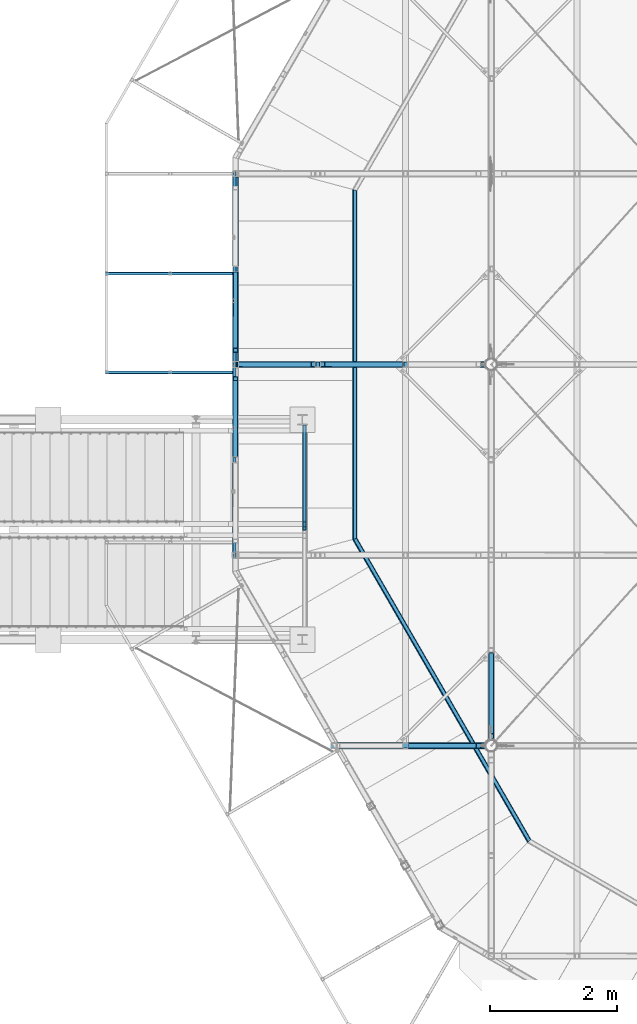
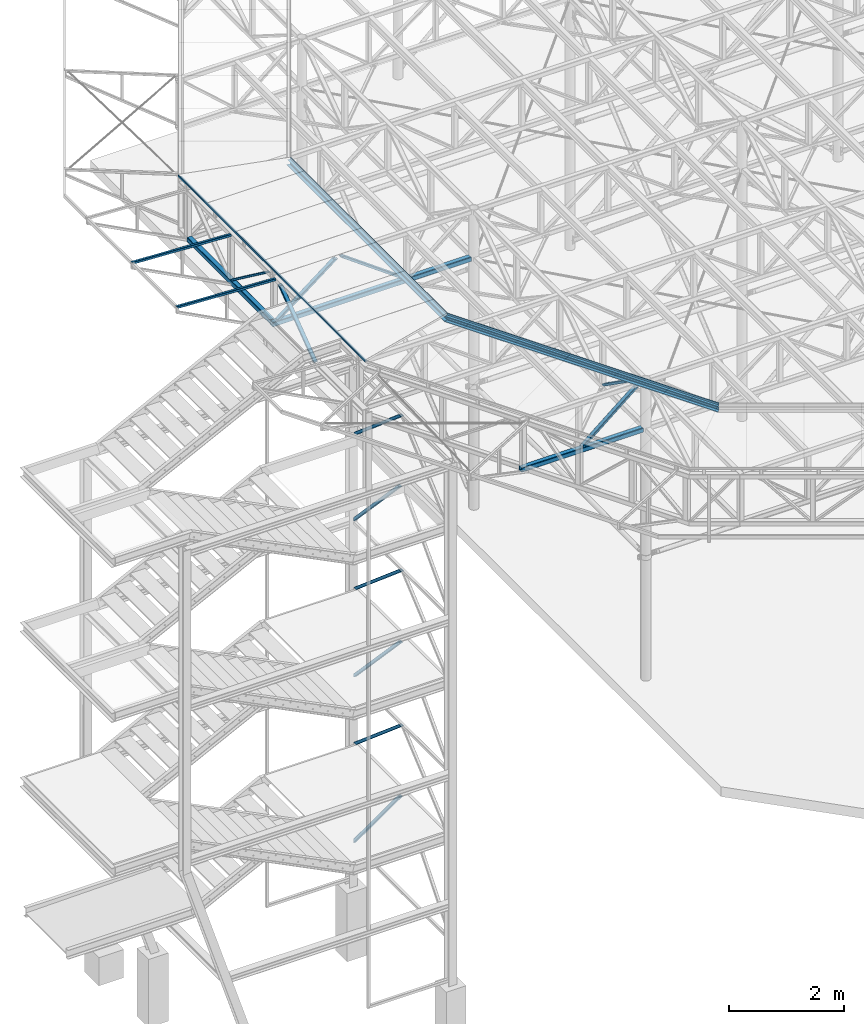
# One storey, part 42 of 132: 22 discrete accessories, 15 elements without a shape of their own.
"""IFC2X3 building model written with IfcOpenShell, lengths in millimetres."""

from ifc_helpers import new_model, si_unit, frame, origin_with_axes, origin_2d_with_axis, place, context, subcontext, project, spatial, polyline, rounded_rectangle, hollow_rectangle, circle, l_section, outline, extrude, boolean, clip, halfspace, material, type_object, element, aggregate, save


model = new_model("IFC2X3")

# Units and contexts
model_context = context("Model", 3, precision=1e-05, world=origin_with_axes())
body_context = subcontext(model_context, "Body", "Model", "MODEL_VIEW")
ifc_project = project(units=[si_unit("LENGTHUNIT", "METRE", prefix="MILLI"), si_unit("AREAUNIT", "SQUARE_METRE"), si_unit("VOLUMEUNIT", "CUBIC_METRE"), si_unit("MASSUNIT", "GRAM", prefix="KILO"), si_unit("TIMEUNIT", "SECOND"), si_unit("PLANEANGLEUNIT", "RADIAN"), si_unit("SOLIDANGLEUNIT", "STERADIAN"), si_unit("THERMODYNAMICTEMPERATUREUNIT", "DEGREE_CELSIUS"), si_unit("LUMINOUSINTENSITYUNIT", "LUMEN")], contexts=[model_context])

# Site, building, storey
site_placement = place(None, origin_with_axes())
site = spatial("IfcSite", under=ifc_project, at=site_placement, Name="Budowa", CompositionType="ELEMENT")
building_placement = place(site_placement, origin_with_axes())
building = spatial("IfcBuilding", under=site, at=building_placement, Name="Undefined", CompositionType="ELEMENT")
storey_placement = place(building_placement, origin_with_axes())
storey = spatial("IfcBuildingStorey", under=building, at=storey_placement, Name="Undefined", CompositionType="ELEMENT", Elevation=0.0)

# Assembly, discrete accessories
assembly_1_placement = place(storey_placement, origin_with_axes())
assembly_1 = element("IfcElementAssembly", 1, at=assembly_1_placement, inside=storey, Name="Steel Assembly", AssemblyPlace="NOTDEFINED", PredefinedType="RIGID_FRAME")
ifc_material = material(Name="STEEL/S235")
discrete_accessory_type_1 = type_object("IfcDiscreteAccessoryType", Name="BEAM")
discrete_accessory_1_placement = place(assembly_1_placement, frame((-19.8260769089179, 15262.3828126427, 14004.0), z_axis=(0.999999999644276, -2.66729999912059e-05, 0.0), x_axis=(-2.66729999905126e-05, -0.999999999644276, 0.0)))
discrete_accessory_1 = element("IfcDiscreteAccessory", 2, at=discrete_accessory_1_placement, type_object=discrete_accessory_type_1, material=ifc_material, Name="BEAM", ObjectType="L60*40*6", context=body_context, shape_type="Clipping", body=[
    clip(clip(extrude(l_section(Depth=60.0, Width=40.0, Thickness=6.0, FilletRadius=6.0, EdgeRadius=3.0, at=origin_2d_with_axis()), frame((6532.94990274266, 1.81898940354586e-12, 0.0), z_axis=(-1.0, 0.0, 0.0), x_axis=(0.0, -1.0, 0.0)), (0.0, 0.0, 1.0), 6541.15), halfspace(frame((6508.67222211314, 1.81898940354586e-12, 30.0000000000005), z_axis=(-0.965921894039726, 0.0, -0.258833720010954), x_axis=(0.0, -1.0, 0.0)), True)), halfspace(frame((-1.35811551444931e-05, 1.81898940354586e-12, -30.0000000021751), z_axis=(0.965934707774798, 0.0, -0.258785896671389), x_axis=(0.0, -1.0, 0.0)), True)),
])
discrete_accessory_2_placement = place(assembly_1_placement, frame((1885.3491541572, 9249.59673348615, 13965.0), z_axis=(-0.866025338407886, -0.500000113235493, 0.0), x_axis=(0.5000000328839, -0.866025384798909, 0.0)))
discrete_accessory_2 = element("IfcDiscreteAccessory", 3, at=discrete_accessory_2_placement, type_object=discrete_accessory_type_1, material=ifc_material, Name="BEAM", ObjectType="L50*6", context=body_context, shape_type="Clipping", body=[
    clip(clip(extrude(l_section(Depth=50.0, Width=50.0, Thickness=6.0, FilletRadius=7.0, EdgeRadius=3.5, at=origin_2d_with_axis()), frame((5526.24367077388, 1.81898940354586e-12, 0.0), z_axis=(-1.0, 0.0, 0.0), x_axis=(0.0, -1.0, 0.0)), (0.0, 0.0, 1.0), 5576.68), halfspace(frame((5475.81065913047, 1.81898940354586e-12, -24.9999999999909), z_axis=(-0.965925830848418, 0.0, 0.258819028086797), x_axis=(0.0, 1.0, 0.0)), True)), halfspace(frame((3.51101334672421e-08, 0.0, -24.9999999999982), z_axis=(-0.965925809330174, 0.0, -0.258819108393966), x_axis=(0.0, 1.0, 0.0)), False)),
])
discrete_accessory_3_placement = place(assembly_1_placement, frame((1881.9997908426, 14737.9039272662, 13965.0), z_axis=(-1.0, 0.0, 0.0), x_axis=(0.0, -1.0, 0.0)))
discrete_accessory_3 = element("IfcDiscreteAccessory", 4, at=discrete_accessory_3_placement, type_object=discrete_accessory_type_1, material=ifc_material, Name="BEAM", ObjectType="L50*6", context=body_context, shape_type="Clipping", body=[
    clip(clip(extrude(l_section(Depth=50.0, Width=50.0, Thickness=6.0, FilletRadius=7.0, EdgeRadius=3.5, at=origin_2d_with_axis()), frame((5496.03735585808, 0.0, 0.0), z_axis=(-1.0, 0.0, 0.0), x_axis=(0.0, -1.0, 0.0)), (0.0, 0.0, 1.0), 5516.27), halfspace(frame((5475.80719653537, 0.0, -25.0000000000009), z_axis=(-0.965925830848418, 0.0, 0.258819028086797), x_axis=(0.0, 1.0, 0.0)), True)), halfspace(frame((-13.3974570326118, 0.0, 24.9999999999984), z_axis=(0.965925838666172, 0.0, 0.258818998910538), x_axis=(0.0, 1.0, 0.0)), True)),
])
aggregate(assembly_1, [discrete_accessory_1, discrete_accessory_2, discrete_accessory_3])

assembly_2_placement = place(storey_placement, origin_with_axes())
assembly_2 = element("IfcElementAssembly", 5, at=assembly_2_placement, inside=storey, Name="Steel Assembly", AssemblyPlace="NOTDEFINED", PredefinedType="RIGID_FRAME")
discrete_accessory_4_placement = place(assembly_2_placement, frame((1878.49979089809, 14735.4923850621, 13955.0), z_axis=(0.0, 0.0, 1.0), x_axis=(0.0, -1.0, 0.0)))
discrete_accessory_4 = element("IfcDiscreteAccessory", 6, at=discrete_accessory_4_placement, type_object=discrete_accessory_type_1, material=ifc_material, Name="BEAM", ObjectType="L150*75*9", context=body_context, shape_type="Clipping", body=[
    clip(clip(extrude(l_section(Depth=150.0, Width=75.0, Thickness=9.0, FilletRadius=10.5, EdgeRadius=5.5, at=origin_2d_with_axis()), frame((5501.32935123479, 0.0, 0.0), z_axis=(-1.0, 0.0, 0.0), x_axis=(0.0, -1.0, 0.0)), (0.0, 0.0, 1.0), 5531.67), halfspace(frame((5470.98411225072, 37.5000000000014, 0.0), z_axis=(-0.965925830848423, -0.258819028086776, 0.0), x_axis=(0.0, 0.0, 1.0)), True)), halfspace(frame((-20.0961854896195, -37.4999999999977, 0.0), z_axis=(0.965925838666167, -0.258818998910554, 0.0), x_axis=(0.0, 0.0, 1.0)), True)),
])
discrete_accessory_5_placement = place(assembly_2_placement, frame((1883.52431064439, 9245.75745461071, 13955.0), z_axis=(0.0, 0.0, 1.0), x_axis=(0.5000000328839, -0.866025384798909, 0.0)))
discrete_accessory_5 = element("IfcDiscreteAccessory", 7, at=discrete_accessory_5_placement, type_object=discrete_accessory_type_1, material=ifc_material, Name="BEAM", ObjectType="L150*75*9", context=body_context, shape_type="Clipping", body=[
    clip(clip(extrude(l_section(Depth=150.0, Width=75.0, Thickness=9.0, FilletRadius=10.5, EdgeRadius=5.5, at=origin_2d_with_axis()), frame((5546.63614111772, 3.07900157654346e-13, 3.63797880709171e-12), z_axis=(-1.0, 0.0, 0.0), x_axis=(0.0, -1.0, 0.0)), (0.0, 0.0, 1.0), 5622.29), halfspace(frame((5470.9866236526, 37.4999999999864, 3.63797880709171e-12), z_axis=(-0.965925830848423, -0.258819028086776, 0.0), x_axis=(0.0, 0.0, 1.0)), True)), halfspace(frame((-0.000949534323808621, 37.5000000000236, 3.63797880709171e-12), z_axis=(-0.965925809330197, 0.258819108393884, 0.0), x_axis=(0.0, 0.0, 1.0)), False)),
])
aggregate(assembly_2, [discrete_accessory_4, discrete_accessory_5])

# Assembly, discrete accessory
assembly_3_placement = place(storey_placement, origin_with_axes())
assembly_3 = element("IfcElementAssembly", 8, at=assembly_3_placement, inside=storey, Name="Steel Assembly", AssemblyPlace="NOTDEFINED", PredefinedType="RIGID_FRAME")
discrete_accessory_6_placement = place(assembly_3_placement, frame((-51.148440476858, 11875.0000000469, 13855.0311915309), z_axis=(0.0, 1.0, 0.0), x_axis=(-0.998752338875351, 0.0, 0.0499376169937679)))
discrete_accessory_6 = element("IfcDiscreteAccessory", 9, at=discrete_accessory_6_placement, type_object=discrete_accessory_type_1, material=ifc_material, Name="BEAM", ObjectType="SHS50*4", context=body_context, shape_type="Clipping", body=[
    clip(clip(extrude(hollow_rectangle(XDim=50.0, YDim=50.0, WallThickness=4.0, InnerFilletRadius=4.0, OuterFilletRadius=8.0, at=origin_2d_with_axis()), frame((2004.12425861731, -3.63797880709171e-12, 0.0), z_axis=(-1.0, 0.0, 0.0), x_axis=(0.0, -1.0, 0.0)), (0.0, 0.0, 1.0), 2033.18), halfspace(frame((2002.59894631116, 25.0000000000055, -2.91038304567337e-11), z_axis=(-0.689225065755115, 0.724547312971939, 0.0), x_axis=(0.0, 0.0, 1.0)), True)), halfspace(frame((-1.21290213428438e-08, 25.0000000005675, 73.1665326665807), z_axis=(-0.998752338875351, 0.0499376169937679, 0.0), x_axis=(-0.0499376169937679, -0.998752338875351, 0.0)), False)),
])
aggregate(assembly_3, [discrete_accessory_6])

assembly_4_placement = place(storey_placement, origin_with_axes())
assembly_4 = element("IfcElementAssembly", 10, at=assembly_4_placement, inside=storey, Name="Steel Assembly", AssemblyPlace="NOTDEFINED", PredefinedType="RIGID_FRAME")
discrete_accessory_7_placement = place(assembly_4_placement, frame((-51.148440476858, 13430.0000000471, 13855.0311915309), z_axis=(0.0, 1.0, 0.0), x_axis=(-0.998752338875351, 0.0, 0.0499376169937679)))
discrete_accessory_7 = element("IfcDiscreteAccessory", 11, at=discrete_accessory_7_placement, type_object=discrete_accessory_type_1, material=ifc_material, Name="BEAM", ObjectType="SHS50*4", context=body_context, shape_type="Clipping", body=[
    clip(clip(extrude(hollow_rectangle(XDim=50.0, YDim=50.0, WallThickness=4.0, InnerFilletRadius=4.0, OuterFilletRadius=8.0, at=origin_2d_with_axis()), frame((2004.12425861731, -3.63797880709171e-12, 0.0), z_axis=(-1.0, 0.0, 0.0), x_axis=(0.0, -1.0, 0.0)), (0.0, 0.0, 1.0), 2033.18), halfspace(frame((2002.59894631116, 25.0000000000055, -2.91038304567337e-11), z_axis=(-0.689225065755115, 0.724547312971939, 0.0), x_axis=(0.0, 0.0, 1.0)), True)), halfspace(frame((-1.21290213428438e-08, 25.0000000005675, 73.1665326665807), z_axis=(-0.998752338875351, 0.0499376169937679, 0.0), x_axis=(-0.0499376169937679, -0.998752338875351, 0.0)), False)),
])
aggregate(assembly_4, [discrete_accessory_7])

# Assembly, discrete accessories
assembly_5_placement = place(storey_placement, origin_with_axes())
assembly_5 = element("IfcElementAssembly", 12, at=assembly_5_placement, inside=storey, Name="Steel Assembly", AssemblyPlace="NOTDEFINED", PredefinedType="RIGID_FRAME")
discrete_accessory_8_placement = place(assembly_5_placement, frame((0.0999999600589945, 13500.000000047, 12830.0000000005), z_axis=(-1.0, 0.0, 0.0), x_axis=(0.0, -0.802498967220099, 0.596653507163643)))
solid_1 = boolean("DIFFERENCE", boolean("DIFFERENCE", extrude(hollow_rectangle(XDim=90.0, YDim=90.0, WallThickness=4.0, InnerFilletRadius=4.0, OuterFilletRadius=8.0, at=origin_2d_with_axis()), frame((566.820831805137, 762.3740188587, -2.91038304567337e-11), z_axis=(-0.596653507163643, -0.802498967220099, 0.0), x_axis=(0.0, 0.0, 1.0)), (0.0, 0.0, 1.0), 900.0), halfspace(frame((-235.678135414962, 1359.02752602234, -2.91038304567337e-11), z_axis=(-0.596653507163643, -0.802498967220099, 0.0), x_axis=(0.0, 0.0, 1.0)), True)), halfspace(frame((-772.666291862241, 636.778455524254, -2.91038304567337e-11), z_axis=(0.596653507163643, 0.802498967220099, 0.0), x_axis=(0.0, 0.0, -1.0)), True))
discrete_accessory_8 = element("IfcDiscreteAccessory", 13, at=discrete_accessory_8_placement, type_object=discrete_accessory_type_1, material=ifc_material, Name="BEAM", ObjectType="RHS80*40*4", context=body_context, shape_type="CSG", body=[
    boolean("DIFFERENCE", boolean("DIFFERENCE", boolean("DIFFERENCE", extrude(hollow_rectangle(XDim=40.0, YDim=80.0, WallThickness=4.0, InnerFilletRadius=4.0, OuterFilletRadius=8.0, at=origin_2d_with_axis()), frame((1637.41704532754, 0.0, 0.0), z_axis=(-1.0, 0.0, 0.0), x_axis=(0.0, -1.0, 0.0)), (0.0, 0.0, 1.0), 1598.82), solid_1), halfspace(frame((1646.18194282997, -40.1249483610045, 1000.0), z_axis=(-0.596653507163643, -0.802498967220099, 0.0), x_axis=(0.802498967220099, -0.596653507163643, 0.0)), True)), halfspace(frame((29.8326753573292, 40.1249483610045, 1000.0), z_axis=(0.596653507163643, 0.802498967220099, 0.0), x_axis=(-0.802498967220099, 0.596653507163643, 0.0)), True)),
])
discrete_accessory_9_placement = place(assembly_5_placement, frame((0.0999999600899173, 14950.000000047, 12830.0), z_axis=(1.0, 0.0, 0.0), x_axis=(0.0, -1.0, 0.0)))
discrete_accessory_9 = element("IfcDiscreteAccessory", 14, at=discrete_accessory_9_placement, type_object=discrete_accessory_type_1, material=ifc_material, Name="BEAM", ObjectType="SHS100*8", context=body_context, shape_type="SweptSolid", body=[
    extrude(hollow_rectangle(XDim=100.0, YDim=100.0, WallThickness=8.0, InnerFilletRadius=8.0, OuterFilletRadius=16.0, at=origin_2d_with_axis()), frame((2900.00000000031, 0.0, 0.0), z_axis=(-1.0, 0.0, 0.0), x_axis=(0.0, -1.0, 0.0)), (0.0, 0.0, 1.0), 2900.0),
])
aggregate(assembly_5, [discrete_accessory_8, discrete_accessory_9])

# Assembly, discrete accessory
assembly_6_placement = place(storey_placement, origin_with_axes())
assembly_6 = element("IfcElementAssembly", 15, at=assembly_6_placement, inside=storey, Name="Steel Assembly", AssemblyPlace="NOTDEFINED", PredefinedType="RIGID_FRAME")
discrete_accessory_10_placement = place(assembly_6_placement, frame((0.0999999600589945, 10500.000000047, 12830.0000000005), z_axis=(-1.0, 0.0, 0.0), x_axis=(0.0, 0.802498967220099, 0.596653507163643)))
solid_2 = boolean("DIFFERENCE", boolean("DIFFERENCE", extrude(hollow_rectangle(XDim=90.0, YDim=90.0, WallThickness=4.0, InnerFilletRadius=4.0, OuterFilletRadius=8.0, at=origin_2d_with_axis()), frame((566.820831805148, -762.374018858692, -2.91038304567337e-11), z_axis=(-0.596653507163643, 0.802498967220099, 0.0), x_axis=(0.0, 0.0, 1.0)), (0.0, 0.0, 1.0), 900.0), halfspace(frame((1369.31979902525, -165.720511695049, -2.91038304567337e-11), z_axis=(-0.596653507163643, 0.802498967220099, 0.0), x_axis=(0.0, 0.0, 1.0)), True)), halfspace(frame((832.33164257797, 556.528558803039, -2.91038304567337e-11), z_axis=(0.596653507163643, -0.802498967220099, 0.0), x_axis=(0.0, 0.0, -1.0)), True))
discrete_accessory_10 = element("IfcDiscreteAccessory", 16, at=discrete_accessory_10_placement, type_object=discrete_accessory_type_1, material=ifc_material, Name="BEAM", ObjectType="RHS80*40*4", context=body_context, shape_type="CSG", body=[
    boolean("DIFFERENCE", boolean("DIFFERENCE", boolean("DIFFERENCE", extrude(hollow_rectangle(XDim=40.0, YDim=80.0, WallThickness=4.0, InnerFilletRadius=4.0, OuterFilletRadius=8.0, at=origin_2d_with_axis()), frame((1637.41704532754, 0.0, 0.0), z_axis=(-1.0, 0.0, 0.0), x_axis=(0.0, -1.0, 0.0)), (0.0, 0.0, 1.0), 1598.82), solid_2), halfspace(frame((1646.18194282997, 40.1249483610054, 1000.0), z_axis=(-0.596653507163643, 0.802498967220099, 0.0), x_axis=(-0.8024989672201, -0.596653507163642, 0.0)), True)), halfspace(frame((29.8326753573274, -40.1249483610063, 1000.0), z_axis=(0.596653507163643, -0.802498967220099, 0.0), x_axis=(0.802498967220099, 0.596653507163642, 0.0)), True)),
])
aggregate(assembly_6, [discrete_accessory_10])

# Assembly, discrete accessories
assembly_7_placement = place(storey_placement, origin_with_axes())
assembly_7 = element("IfcElementAssembly", 17, at=assembly_7_placement, inside=storey, Name="Steel Assembly", AssemblyPlace="NOTDEFINED", PredefinedType="RIGID_FRAME")
discrete_accessory_11_placement = place(assembly_7_placement, frame((3884.09999981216, 6000.00000004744, 13830.0000000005), z_axis=(0.0, -1.0, 0.0), x_axis=(-0.77030791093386, 0.0, -0.637672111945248)))
solid_3 = boolean("DIFFERENCE", boolean("DIFFERENCE", extrude(rounded_rectangle(XDim=90.0, YDim=90.0, RoundingRadius=12.0, at=origin_2d_with_axis()), frame((1536.32046276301, -38.5153958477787, 3.71073838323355e-10), z_axis=(-0.637672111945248, -0.770307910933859, 0.0), x_axis=(0.0, 0.0, 1.0)), (0.0, 0.0, 1.0), 900.0), halfspace(frame((766.012551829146, 599.156716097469, 3.71073838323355e-10), z_axis=(-0.637672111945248, -0.770307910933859, 0.0), x_axis=(0.77030791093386, -0.637672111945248, 0.0)), True)), halfspace(frame((192.107651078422, -94.1204037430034, 3.71073838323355e-10), z_axis=(0.637672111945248, 0.770307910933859, 0.0), x_axis=(0.77030791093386, -0.637672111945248, 0.0)), True))
discrete_accessory_11 = element("IfcDiscreteAccessory", 18, at=discrete_accessory_11_placement, type_object=discrete_accessory_type_1, material=ifc_material, Name="BEAM", ObjectType="RHS90*50*5", context=body_context, shape_type="CSG", body=[
    boolean("DIFFERENCE", boolean("DIFFERENCE", boolean("DIFFERENCE", extrude(hollow_rectangle(XDim=50.0, YDim=90.0, WallThickness=5.0, InnerFilletRadius=7.5, OuterFilletRadius=12.5, at=origin_2d_with_axis()), frame((1532.27723418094, -9.9455317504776e-13, 0.0), z_axis=(-1.0, 0.0, 0.0), x_axis=(0.0, -1.0, 0.0)), (0.0, 0.0, 1.0), 1496.35), solid_3), halfspace(frame((1536.3204623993, -38.515395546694, 1000.0), z_axis=(-0.637672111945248, -0.770307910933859, 0.0), x_axis=(0.77030791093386, -0.637672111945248, 0.0)), True)), halfspace(frame((31.8836055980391, 38.5153955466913, 1000.0), z_axis=(0.637672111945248, 0.770307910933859, 0.0), x_axis=(-0.770307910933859, 0.637672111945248, 0.0)), True)),
])
discrete_accessory_12_placement = place(assembly_7_placement, frame((3936.09999980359, 6000.00000004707, 12830.0), z_axis=(0.0, -1.0, 0.0), x_axis=(-1.0, 0.0, 0.0)))
discrete_accessory_12 = element("IfcDiscreteAccessory", 19, at=discrete_accessory_12_placement, type_object=discrete_accessory_type_1, material=ifc_material, Name="BEAM", ObjectType="SHS100*8", context=body_context, shape_type="CSG", body=[
    boolean("DIFFERENCE", boolean("DIFFERENCE", extrude(hollow_rectangle(XDim=100.0, YDim=100.0, WallThickness=8.0, InnerFilletRadius=8.0, OuterFilletRadius=16.0, at=origin_2d_with_axis()), frame((2434.0, 0.0, 0.0), z_axis=(-1.0, 0.0, 0.0), x_axis=(0.0, -1.0, 0.0)), (0.0, 0.0, 1.0), 2522.9), extrude(circle(Radius=89.9, at=origin_2d_with_axis()), frame((-88.9000001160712, -1950.0, -7.27595761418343e-12), z_axis=(0.0, 1.0, 0.0), x_axis=(0.0, 0.0, 1.0)), (0.0, 0.0, 1.0), 2100.0)), halfspace(frame((-88.9000001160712, 5339.0, -7.27595761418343e-12), z_axis=(-1.0, 0.0, 0.0), x_axis=(0.0, 0.0, 1.0)), False)),
])
aggregate(assembly_7, [discrete_accessory_11, discrete_accessory_12])

assembly_8_placement = place(storey_placement, origin_with_axes())
assembly_8 = element("IfcElementAssembly", 20, at=assembly_8_placement, inside=storey, Name="Steel Assembly", AssemblyPlace="NOTDEFINED", PredefinedType="RIGID_FRAME")
discrete_accessory_13_placement = place(assembly_8_placement, frame((1295.10000038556, 12000.0000000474, 13830.0000000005), z_axis=(0.0, -1.0, 0.0), x_axis=(0.809951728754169, 0.0, -0.586496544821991)))
solid_4 = boolean("DIFFERENCE", boolean("DIFFERENCE", extrude(hollow_rectangle(XDim=90.0, YDim=90.0, WallThickness=6.0, InnerFilletRadius=6.0, OuterFilletRadius=12.0, at=origin_2d_with_axis()), frame((1675.71505464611, 40.497585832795, 3.74711817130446e-10), z_axis=(-0.586496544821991, 0.809951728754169, 0.0), x_axis=(0.0, 0.0, 1.0)), (0.0, 0.0, 1.0), 900.0), halfspace(frame((2485.66678340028, 626.994130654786, 3.74711817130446e-10), z_axis=(-0.586496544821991, 0.809951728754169, 0.0), x_axis=(-0.809951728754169, -0.58649654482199, 0.0)), True)), halfspace(frame((1957.81989306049, 1355.95068653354, 3.74711817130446e-10), z_axis=(0.58649654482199, -0.809951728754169, 0.0), x_axis=(-0.809951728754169, -0.58649654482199, 0.0)), True))
solid_5 = boolean("DIFFERENCE", boolean("DIFFERENCE", extrude(hollow_rectangle(XDim=90.0, YDim=90.0, WallThickness=6.0, InnerFilletRadius=6.0, OuterFilletRadius=12.0, at=origin_2d_with_axis()), frame((557.171717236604, -769.454142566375, 3.74711817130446e-10), z_axis=(-0.586496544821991, 0.809951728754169, 0.0), x_axis=(0.0, 0.0, 1.0)), (0.0, 0.0, 1.0), 900.0), halfspace(frame((1367.12344599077, -182.957597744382, 3.74711817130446e-10), z_axis=(-0.586496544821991, 0.809951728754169, 0.0), x_axis=(-0.809951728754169, -0.58649654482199, 0.0)), True)), halfspace(frame((839.276555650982, 545.998958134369, 3.74711817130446e-10), z_axis=(0.58649654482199, -0.809951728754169, 0.0), x_axis=(-0.809951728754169, -0.58649654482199, 0.0)), True))
discrete_accessory_13 = element("IfcDiscreteAccessory", 21, at=discrete_accessory_13_placement, type_object=discrete_accessory_type_1, material=ifc_material, Name="BEAM", ObjectType="RHS90*50*5", context=body_context, shape_type="CSG", body=[
    boolean("DIFFERENCE", boolean("DIFFERENCE", boolean("DIFFERENCE", boolean("DIFFERENCE", extrude(hollow_rectangle(XDim=50.0, YDim=90.0, WallThickness=5.0, InnerFilletRadius=7.5, OuterFilletRadius=12.5, at=origin_2d_with_axis()), frame((1659.13615307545, -9.21005579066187e-14, 1.81898940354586e-12), z_axis=(-1.0, 0.0, 0.0), x_axis=(0.0, -1.0, 0.0)), (0.0, 0.0, 1.0), 1613.23), solid_4), solid_5), halfspace(frame((1675.7150554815, 40.4975864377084, 1000.0), z_axis=(-0.586496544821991, 0.809951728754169, 0.0), x_axis=(-0.809951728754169, -0.58649654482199, 0.0)), True)), halfspace(frame((29.3248272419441, -40.4975864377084, 1000.0), z_axis=(0.58649654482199, -0.809951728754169, 0.0), x_axis=(0.809951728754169, 0.58649654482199, 0.0)), True)),
])
discrete_accessory_14_placement = place(assembly_8_placement, frame((0.0999999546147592, 12000.0000000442, 12830.0000000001), z_axis=(0.0, -1.0, 0.0), x_axis=(0.791486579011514, 0.0, 0.611186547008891)))
solid_6 = boolean("DIFFERENCE", boolean("DIFFERENCE", extrude(hollow_rectangle(XDim=100.0, YDim=100.0, WallThickness=8.0, InnerFilletRadius=8.0, OuterFilletRadius=16.0, at=origin_2d_with_axis()), frame((30.5593273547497, 39.5743289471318, -2.88673618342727e-09), z_axis=(0.611186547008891, 0.791486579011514, 0.0), x_axis=(0.0, 0.0, 1.0)), (0.0, 0.0, 1.0), 900.0), halfspace(frame((822.045906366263, -571.612218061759, -2.88673618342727e-09), z_axis=(0.611186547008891, 0.791486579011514, 0.0), x_axis=(-0.791486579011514, 0.611186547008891, 0.0)), True)), halfspace(frame((1372.11379867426, 140.725703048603, -2.88673618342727e-09), z_axis=(-0.611186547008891, -0.791486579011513, 0.0), x_axis=(-0.791486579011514, 0.611186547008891, 0.0)), True))
solid_7 = boolean("DIFFERENCE", boolean("DIFFERENCE", extrude(hollow_rectangle(XDim=90.0, YDim=90.0, WallThickness=6.0, InnerFilletRadius=6.0, OuterFilletRadius=12.0, at=origin_2d_with_axis()), frame((1055.53444717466, -751.912249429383, -2.88673618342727e-09), z_axis=(0.611186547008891, 0.791486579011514, 0.0), x_axis=(0.0, 0.0, 1.0)), (0.0, 0.0, 1.0), 900.0), halfspace(frame((1847.02102618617, -1363.09879643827, -2.88673618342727e-09), z_axis=(0.611186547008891, 0.791486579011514, 0.0), x_axis=(-0.791486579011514, 0.611186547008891, 0.0)), True)), halfspace(frame((2397.08891849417, -650.760875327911, -2.88673618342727e-09), z_axis=(-0.611186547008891, -0.791486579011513, 0.0), x_axis=(-0.791486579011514, 0.611186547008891, 0.0)), True))
discrete_accessory_14 = element("IfcDiscreteAccessory", 22, at=discrete_accessory_14_placement, type_object=discrete_accessory_type_1, material=ifc_material, Name="BEAM", ObjectType="RHS90*50*5", context=body_context, shape_type="CSG", body=[
    boolean("DIFFERENCE", boolean("DIFFERENCE", boolean("DIFFERENCE", boolean("DIFFERENCE", extrude(hollow_rectangle(XDim=50.0, YDim=90.0, WallThickness=5.0, InnerFilletRadius=7.5, OuterFilletRadius=12.5, at=origin_2d_with_axis()), frame((1581.93293336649, 8.78149183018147e-14, 0.0), z_axis=(-1.0, 0.0, 0.0), x_axis=(0.0, -1.0, 0.0)), (0.0, 0.0, 1.0), 1527.7), solid_6), solid_7), halfspace(frame((1605.60234030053, -39.5743289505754, 1000.0), z_axis=(-0.611186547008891, -0.791486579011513, 0.0), x_axis=(0.791486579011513, -0.611186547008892, 0.0)), True)), halfspace(frame((30.5593273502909, 39.5743289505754, 1000.0), z_axis=(0.611186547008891, 0.791486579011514, 0.0), x_axis=(-0.791486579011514, 0.611186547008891, 0.0)), True)),
])
discrete_accessory_15_placement = place(assembly_8_placement, frame((3936.09999996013, 12000.000000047, 12830.0), z_axis=(0.0, -1.0, 0.0), x_axis=(-1.0, 0.0, 0.0)))
discrete_accessory_15 = element("IfcDiscreteAccessory", 23, at=discrete_accessory_15_placement, type_object=discrete_accessory_type_1, material=ifc_material, Name="BEAM", ObjectType="SHS100*8", context=body_context, shape_type="CSG", body=[
    boolean("DIFFERENCE", boolean("DIFFERENCE", extrude(hollow_rectangle(XDim=100.0, YDim=100.0, WallThickness=8.0, InnerFilletRadius=8.0, OuterFilletRadius=16.0, at=origin_2d_with_axis()), frame((3986.0, 0.0, 0.0), z_axis=(-1.0, 0.0, 0.0), x_axis=(0.0, -1.0, 0.0)), (0.0, 0.0, 1.0), 4074.9), extrude(circle(Radius=89.9, at=origin_2d_with_axis()), frame((-88.9000001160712, -1950.0, -7.27595761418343e-12), z_axis=(0.0, 1.0, 0.0), x_axis=(0.0, 0.0, 1.0)), (0.0, 0.0, 1.0), 2100.0)), halfspace(frame((-88.9000001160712, 5339.0, -7.27595761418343e-12), z_axis=(-1.0, 0.0, 0.0), x_axis=(0.0, 0.0, 1.0)), False)),
])
aggregate(assembly_8, [discrete_accessory_13, discrete_accessory_14, discrete_accessory_15])

# Assembly, discrete accessory
assembly_9_placement = place(storey_placement, origin_with_axes())
assembly_9 = element("IfcElementAssembly", 24, at=assembly_9_placement, inside=storey, Name="Steel Assembly", AssemblyPlace="NOTDEFINED", PredefinedType="RIGID_FRAME")
discrete_accessory_16_placement = place(assembly_9_placement, frame((4024.99999991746, 7499.80000004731, 12829.9999999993), z_axis=(1.0, 0.0, 0.0), x_axis=(0.0, -0.817796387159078, 0.575507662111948)))
solid_8 = boolean("DIFFERENCE", boolean("DIFFERENCE", extrude(hollow_rectangle(XDim=90.0, YDim=90.0, WallThickness=6.0, InnerFilletRadius=6.0, OuterFilletRadius=12.0, at=origin_2d_with_axis()), frame((28.6118238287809, -41.0049208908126, 2.20825313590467e-09), z_axis=(0.575507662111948, -0.817796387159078, 0.0), x_axis=(0.817796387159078, 0.575507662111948, 0.0)), (0.0, 0.0, 1.0), 900.0), halfspace(frame((28.6118238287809, -41.0049208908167, 1000.00000000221), z_axis=(0.575507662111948, -0.817796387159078, 0.0), x_axis=(0.817796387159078, 0.575507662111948, 0.0)), True)), halfspace(frame((546.568719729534, -777.021669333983, 1000.00000000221), z_axis=(-0.57550766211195, 0.817796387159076, 0.0), x_axis=(-0.817796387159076, -0.57550766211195, 0.0)), True))
discrete_accessory_16 = element("IfcDiscreteAccessory", 25, at=discrete_accessory_16_placement, type_object=discrete_accessory_type_1, material=ifc_material, Name="BEAM", ObjectType="RHS90*50*5", context=body_context, shape_type="CSG", body=[
    boolean("DIFFERENCE", boolean("DIFFERENCE", boolean("DIFFERENCE", extrude(hollow_rectangle(XDim=50.0, YDim=90.0, WallThickness=5.0, InnerFilletRadius=7.5, OuterFilletRadius=12.5, at=origin_2d_with_axis()), frame((1708.27858753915, 0.0, 0.0), z_axis=(-1.0, 0.0, 0.0), x_axis=(0.0, -1.0, 0.0)), (0.0, 0.0, 1.0), 1678.96), solid_8), halfspace(frame((1708.8209441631, 40.8898193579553, 1000.0), z_axis=(-0.57550766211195, 0.817796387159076, 0.0), x_axis=(-0.817796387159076, -0.57550766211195, 0.0)), True)), halfspace(frame((28.7753831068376, -40.8898193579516, 1000.0), z_axis=(0.575507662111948, -0.817796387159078, 0.0), x_axis=(0.817796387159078, 0.575507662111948, 0.0)), True)),
])
aggregate(assembly_9, [discrete_accessory_16])

assembly_10_placement = place(storey_placement, origin_with_axes())
assembly_10 = element("IfcElementAssembly", 26, at=assembly_10_placement, inside=storey, Name="Steel Assembly", AssemblyPlace="NOTDEFINED", PredefinedType="RIGID_FRAME")
discrete_accessory_type_2 = type_object("IfcDiscreteAccessoryType", Name="COLUMN")
discrete_accessory_17_placement = place(assembly_10_placement, frame((1084.99999991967, 9400.0000001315, 12070.0), z_axis=(-1.0, 0.0, 0.0), x_axis=(0.0, 0.762047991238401, -0.647520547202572)))
discrete_accessory_17 = element("IfcDiscreteAccessory", 27, at=discrete_accessory_17_placement, type_object=discrete_accessory_type_2, material=ifc_material, Name="COLUMN", ObjectType="SHS60*4", context=body_context, shape_type="CSG", body=[
    boolean("DIFFERENCE", boolean("DIFFERENCE", boolean("DIFFERENCE", extrude(hollow_rectangle(XDim=60.0, YDim=60.0, WallThickness=4.0, InnerFilletRadius=4.0, OuterFilletRadius=8.0, at=origin_2d_with_axis()), frame((2200.87714750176, -1.22173224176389e-13, 0.0), z_axis=(-1.0, 0.0, 0.0), x_axis=(0.0, -1.0, 0.0)), (0.0, 0.0, 1.0), 2190.21), extrude(outline(polyline([(0.0, 0.0), (126.745407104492, 0.0), (126.745407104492, 200.0), (0.0, 200.0), (0.0, 0.0)])), frame((2144.48233514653, -24.4031548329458, 32.5), z_axis=(0.0, 0.0, -1.0), x_axis=(-0.762047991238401, 0.647520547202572, 0.0)), (0.0, 0.0, 1.0), 65.0)), halfspace(frame((3186.99041614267, 1202.49411106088, 95.0000000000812), z_axis=(-0.762047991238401, 0.647520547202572, 0.0), x_axis=(-0.647520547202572, -0.762047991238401, 0.0)), True)), halfspace(frame((19.425616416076, 22.8614397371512, 1000.0), z_axis=(0.647520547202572, 0.762047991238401, 0.0), x_axis=(-0.762047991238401, 0.647520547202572, 0.0)), True)),
])
aggregate(assembly_10, [discrete_accessory_17])

assembly_11_placement = place(storey_placement, origin_with_axes())
assembly_11 = element("IfcElementAssembly", 28, at=assembly_11_placement, inside=storey, Name="Steel Assembly", AssemblyPlace="NOTDEFINED", PredefinedType="RIGID_FRAME")
discrete_accessory_18_placement = place(assembly_11_placement, frame((1084.99999991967, 9400.0000001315, 8770.0), z_axis=(-1.0, 0.0, 0.0), x_axis=(0.0, 0.762047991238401, -0.647520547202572)))
discrete_accessory_18 = element("IfcDiscreteAccessory", 29, at=discrete_accessory_18_placement, type_object=discrete_accessory_type_2, material=ifc_material, Name="COLUMN", ObjectType="SHS60*4", context=body_context, shape_type="CSG", body=[
    boolean("DIFFERENCE", boolean("DIFFERENCE", boolean("DIFFERENCE", extrude(hollow_rectangle(XDim=60.0, YDim=60.0, WallThickness=4.0, InnerFilletRadius=4.0, OuterFilletRadius=8.0, at=origin_2d_with_axis()), frame((2200.87714750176, -1.22173224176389e-13, 0.0), z_axis=(-1.0, 0.0, 0.0), x_axis=(0.0, -1.0, 0.0)), (0.0, 0.0, 1.0), 2190.21), extrude(outline(polyline([(0.0, 0.0), (120.0, 0.0), (120.0, 200.0), (0.0, 200.0), (0.0, 0.0)])), frame((2144.48233514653, -24.4031548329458, 32.5), z_axis=(0.0, 0.0, -1.0), x_axis=(-0.762047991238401, 0.647520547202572, 0.0)), (0.0, 0.0, 1.0), 65.0)), halfspace(frame((3186.99041614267, 1202.49411106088, 95.0000000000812), z_axis=(-0.762047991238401, 0.647520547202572, 0.0), x_axis=(-0.647520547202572, -0.762047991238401, 0.0)), True)), halfspace(frame((19.425616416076, 22.8614397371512, 1000.0), z_axis=(0.647520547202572, 0.762047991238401, 0.0), x_axis=(-0.762047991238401, 0.647520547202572, 0.0)), True)),
])
aggregate(assembly_11, [discrete_accessory_18])

assembly_12_placement = place(storey_placement, origin_with_axes())
assembly_12 = element("IfcElementAssembly", 30, at=assembly_12_placement, inside=storey, Name="Steel Assembly", AssemblyPlace="NOTDEFINED", PredefinedType="RIGID_FRAME")
discrete_accessory_19_placement = place(assembly_12_placement, frame((1084.99999991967, 9400.0000001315, 5470.0), z_axis=(-1.0, 0.0, 0.0), x_axis=(0.0, 0.762047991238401, -0.647520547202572)))
discrete_accessory_19 = element("IfcDiscreteAccessory", 31, at=discrete_accessory_19_placement, type_object=discrete_accessory_type_2, material=ifc_material, Name="COLUMN", ObjectType="SHS60*4", context=body_context, shape_type="CSG", body=[
    boolean("DIFFERENCE", boolean("DIFFERENCE", boolean("DIFFERENCE", extrude(hollow_rectangle(XDim=60.0, YDim=60.0, WallThickness=4.0, InnerFilletRadius=4.0, OuterFilletRadius=8.0, at=origin_2d_with_axis()), frame((2200.87714750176, -1.22173224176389e-13, 0.0), z_axis=(-1.0, 0.0, 0.0), x_axis=(0.0, -1.0, 0.0)), (0.0, 0.0, 1.0), 2190.21), extrude(outline(polyline([(0.0, 0.0), (143.42805480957, 0.0), (143.42805480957, 200.0), (14.016674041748, 200.0), (0.0, 200.0), (0.0, 0.0)])), frame((2144.48233514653, -24.4031548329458, 32.5), z_axis=(0.0, 0.0, -1.0), x_axis=(-0.762047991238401, 0.647520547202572, 0.0)), (0.0, 0.0, 1.0), 65.0)), halfspace(frame((3186.99041614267, 1202.49411106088, 95.0000000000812), z_axis=(-0.762047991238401, 0.647520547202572, 0.0), x_axis=(-0.647520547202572, -0.762047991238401, 0.0)), True)), halfspace(frame((19.425616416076, 22.8614397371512, 1000.0), z_axis=(0.647520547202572, 0.762047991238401, 0.0), x_axis=(-0.762047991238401, 0.647520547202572, 0.0)), True)),
])
aggregate(assembly_12, [discrete_accessory_19])

assembly_13_placement = place(storey_placement, origin_with_axes())
assembly_13 = element("IfcElementAssembly", 32, at=assembly_13_placement, inside=storey, Name="Steel Assembly", AssemblyPlace="NOTDEFINED", PredefinedType="RIGID_FRAME")
discrete_accessory_20_placement = place(assembly_13_placement, frame((1084.99999991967, 9400.0000001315, 10600.0), z_axis=(-1.0, 0.0, 0.0), x_axis=(0.0, 0.686973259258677, -0.726682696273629)))
discrete_accessory_20 = element("IfcDiscreteAccessory", 33, at=discrete_accessory_20_placement, type_object=discrete_accessory_type_2, material=ifc_material, Name="COLUMN", ObjectType="SHS60*4", context=body_context, shape_type="Clipping", body=[
    clip(clip(extrude(hollow_rectangle(XDim=60.0, YDim=60.0, WallThickness=4.0, InnerFilletRadius=4.0, OuterFilletRadius=8.0, at=origin_2d_with_axis()), frame((2462.53592121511, 0.0, 0.0), z_axis=(-1.0, 0.0, 0.0), x_axis=(0.0, -1.0, 0.0)), (0.0, 0.0, 1.0), 2385.62), halfspace(frame((3299.02031261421, 848.153863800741, 95.0000000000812), z_axis=(-0.686973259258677, 0.726682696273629, 0.0), x_axis=(-0.726682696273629, -0.686973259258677, 0.0)), True)), halfspace(frame((72.6682696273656, 68.6973259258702, 1000.0), z_axis=(0.726682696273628, 0.686973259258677, 0.0), x_axis=(-0.686973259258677, 0.726682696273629, 0.0)), True)),
])
aggregate(assembly_13, [discrete_accessory_20])

assembly_14_placement = place(storey_placement, origin_with_axes())
assembly_14 = element("IfcElementAssembly", 34, at=assembly_14_placement, inside=storey, Name="Steel Assembly", AssemblyPlace="NOTDEFINED", PredefinedType="RIGID_FRAME")
discrete_accessory_21_placement = place(assembly_14_placement, frame((1084.99999991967, 9400.0000001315, 7270.0), z_axis=(-1.0, 0.0, 0.0), x_axis=(0.0, 0.686973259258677, -0.726682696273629)))
discrete_accessory_21 = element("IfcDiscreteAccessory", 35, at=discrete_accessory_21_placement, type_object=discrete_accessory_type_2, material=ifc_material, Name="COLUMN", ObjectType="SHS60*4", context=body_context, shape_type="CSG", body=[
    boolean("DIFFERENCE", boolean("DIFFERENCE", boolean("DIFFERENCE", extrude(hollow_rectangle(XDim=60.0, YDim=60.0, WallThickness=4.0, InnerFilletRadius=4.0, OuterFilletRadius=8.0, at=origin_2d_with_axis()), frame((2448.55745277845, 1.54714491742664e-12, 0.0), z_axis=(-1.0, 0.0, 0.0), x_axis=(0.0, -1.0, 0.0)), (0.0, 0.0, 1.0), 2398.95), extrude(outline(polyline([(0.0, 0.0), (60.0, 0.0), (60.0, 60.0), (0.0, 60.0), (0.0, 0.0)])), frame((2419.73425012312, 16.9162200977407, 32.5), z_axis=(0.0, 0.0, -1.0), x_axis=(-0.686973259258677, 0.726682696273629, 0.0)), (0.0, 0.0, 1.0), 65.0)), halfspace(frame((3299.02031261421, 848.153863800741, 95.0000000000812), z_axis=(-0.686973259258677, 0.726682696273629, 0.0), x_axis=(-0.726682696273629, -0.686973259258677, 0.0)), True)), halfspace(frame((31.384776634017, 68.6973259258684, 1000.0), z_axis=(0.726682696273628, 0.686973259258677, 0.0), x_axis=(-0.686973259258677, 0.726682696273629, 0.0)), True)),
])
aggregate(assembly_14, [discrete_accessory_21])

assembly_15_placement = place(storey_placement, origin_with_axes())
assembly_15 = element("IfcElementAssembly", 36, at=assembly_15_placement, inside=storey, Name="Steel Assembly", AssemblyPlace="NOTDEFINED", PredefinedType="RIGID_FRAME")
discrete_accessory_22_placement = place(assembly_15_placement, frame((1084.99999991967, 9400.0000001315, 4000.0), z_axis=(-1.0, 0.0, 0.0), x_axis=(0.0, 0.637643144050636, -0.770331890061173)))
discrete_accessory_22 = element("IfcDiscreteAccessory", 37, at=discrete_accessory_22_placement, type_object=discrete_accessory_type_2, material=ifc_material, Name="COLUMN", ObjectType="SHS60*4", context=body_context, shape_type="Clipping", body=[
    clip(clip(extrude(hollow_rectangle(XDim=60.0, YDim=60.0, WallThickness=4.0, InnerFilletRadius=4.0, OuterFilletRadius=8.0, at=origin_2d_with_axis()), frame((2649.34032645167, 4.41203794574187e-13, 0.0), z_axis=(-1.0, 0.0, 0.0), x_axis=(0.0, -1.0, 0.0)), (0.0, 0.0, 1.0), 2581.21), halfspace(frame((3347.70022001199, 629.128950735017, 95.0000000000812), z_axis=(-0.637643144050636, 0.770331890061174, 0.0), x_axis=(-0.770331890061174, -0.637643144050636, 0.0)), True)), halfspace(frame((77.0331890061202, 63.7643144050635, 1000.0), z_axis=(0.770331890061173, 0.637643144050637, 0.0), x_axis=(-0.637643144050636, 0.770331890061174, 0.0)), True)),
])
aggregate(assembly_15, [discrete_accessory_22])

save(model, "model.ifc")
